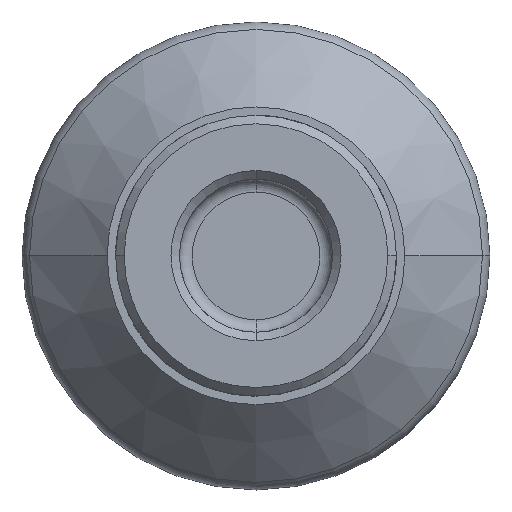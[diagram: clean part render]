
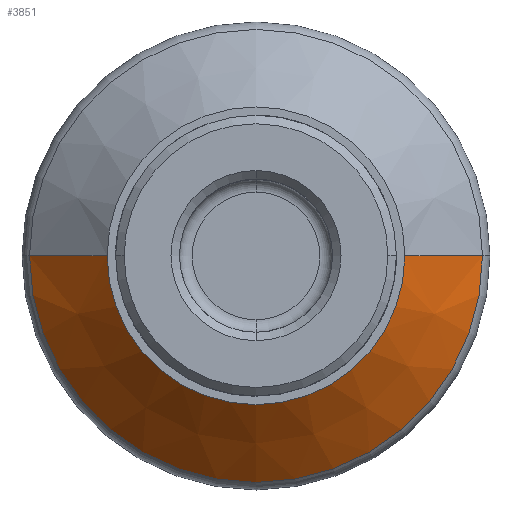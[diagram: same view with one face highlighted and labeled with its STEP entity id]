
A CAD part, top view. The second image highlights one B-rep face of the part: STEP entity #3851.
In plain terms, the highlighted conical face has half-angle 45 degrees and reference radius 22.061 mm.
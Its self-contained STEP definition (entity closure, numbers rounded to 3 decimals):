
#827=CARTESIAN_POINT('',(0.,0.,7.879));
#828=DIRECTION('',(0.,0.,-1.));
#829=DIRECTION('',(1.,0.,0.));
#830=AXIS2_PLACEMENT_3D('',#827,#828,#829);
#835=DIRECTION('',(-0.707,0.,-0.707));
#836=VECTOR('',#835,12.899);
#837=CARTESIAN_POINT('',(-17.5,0.,
17.));
#838=LINE('',#837,#836);
#850=DIRECTION('',(0.707,0.,-0.707));
#851=VECTOR('',#850,12.899);
#852=CARTESIAN_POINT('',(17.5,0.,17.));
#853=LINE('',#852,#851);
#873=CARTESIAN_POINT('',(0.,0.,17.));
#874=DIRECTION('',(0.,0.,1.));
#875=DIRECTION('',(-1.,0.,0.));
#876=AXIS2_PLACEMENT_3D('',#873,#874,#875);
#2853=CARTESIAN_POINT('',(-17.5,0.,17.));
#2854=CARTESIAN_POINT('',(17.5,0.,17.));
#2855=VERTEX_POINT('',#2853);
#2856=VERTEX_POINT('',#2854);
#3151=CARTESIAN_POINT('',(26.621,0.,7.879));
#3152=CARTESIAN_POINT('',(-26.621,0.,
7.879));
#3153=VERTEX_POINT('',#3151);
#3154=VERTEX_POINT('',#3152);
#3837=CARTESIAN_POINT('',(0.,0.,12.439));
#3838=DIRECTION('',(0.,0.,-1.));
#3839=DIRECTION('',(0.,-1.,0.));
#3840=AXIS2_PLACEMENT_3D('',#3837,#3838,#3839);
#3841=CONICAL_SURFACE('',#3840,22.061,45.);
#3842=ORIENTED_EDGE('',*,*,#3819,.T.);
#3844=ORIENTED_EDGE('',*,*,#3843,.F.);
#3846=ORIENTED_EDGE('',*,*,#3845,.T.);
#3848=ORIENTED_EDGE('',*,*,#3847,.T.);
#3849=EDGE_LOOP('',(#3842,#3844,#3846,#3848));
#3850=FACE_OUTER_BOUND('',#3849,.F.);
#831=CIRCLE('',#830,26.621);
#877=CIRCLE('',#876,17.5);
#3819=EDGE_CURVE('',#3153,#3154,#831,.T.);
#3843=EDGE_CURVE('',#2855,#3154,#838,.T.);
#3845=EDGE_CURVE('',#2855,#2856,#877,.T.);
#3847=EDGE_CURVE('',#2856,#3153,#853,.T.);
#3851=ADVANCED_FACE('',(#3850),#3841,.T.);
